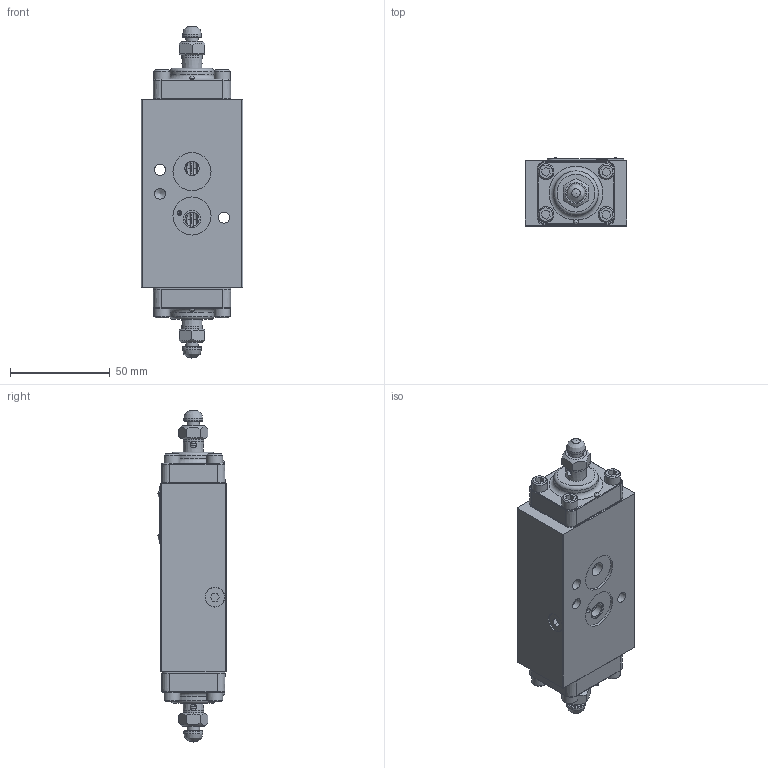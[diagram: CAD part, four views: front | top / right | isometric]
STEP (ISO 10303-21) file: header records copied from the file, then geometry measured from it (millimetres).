
FILE_DESCRIPTION(/* description */ (''),/* implementation_level */ '2;1');
FILE_NAME(/* name */ 'D:\Website Files\stp\Valves\Differential\DY\NDY2.stp',/* time_stamp */ '2015-09-23T08:24:38-04:00',/* author */ ('RMcKenna'),/* organization */ (''),/* preprocessor_version */ 'ST-DEVELOPER v15.6',/* originating_system */ 'Autodesk Inventor 2015',/* authorisation */ '');
FILE_SCHEMA (('AUTOMOTIVE_DESIGN { 1 0 10303 214 3 1 1 }'));
Length unit declared in the file: centimetre
Products named in the file (1): Part224
Bounding box: 50.8 x 34.06 x 166.13 mm (x, y, z)
Volume: 160346.6 mm3; surface area: 53245 mm2
Topology: 4 solids, 26 shells, 1190 faces, 2850 edges, 1808 vertices
Faces by surface type: plane 482, cone 274, cylinder 227, torus 111, bspline 86, sphere 10
Full cylindrical faces by diameter (mm): 1.016 x4, 1.588 x2, 2.07 x2, 2.261 x2, 2.362 x6, 2.388 x4, 2.778 x2, 3.048 x1, 3.175 x10, 3.556 x2, 3.683 x9, 3.734 x1, 4.572 x4, 4.75 x2, 4.826 x8, 5.156 x8, 5.512 x1, 5.556 x2, 6.198 x2, 6.452 x2, 6.731 x1, 7.087 x1, 7.137 x3, 7.144 x4, 7.938 x8, 7.95 x1, 8.731 x2, 9.525 x4, 9.728 x1, 9.906 x1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
Entity records: 38691 total; most frequent: CARTESIAN_POINT 12285, DIRECTION 5145, ORIENTED_EDGE 4846, EDGE_CURVE 2423, AXIS2_PLACEMENT_3D 2071, VERTEX_POINT 1676, EDGE_LOOP 1639, FACE_OUTER_BOUND 1188
